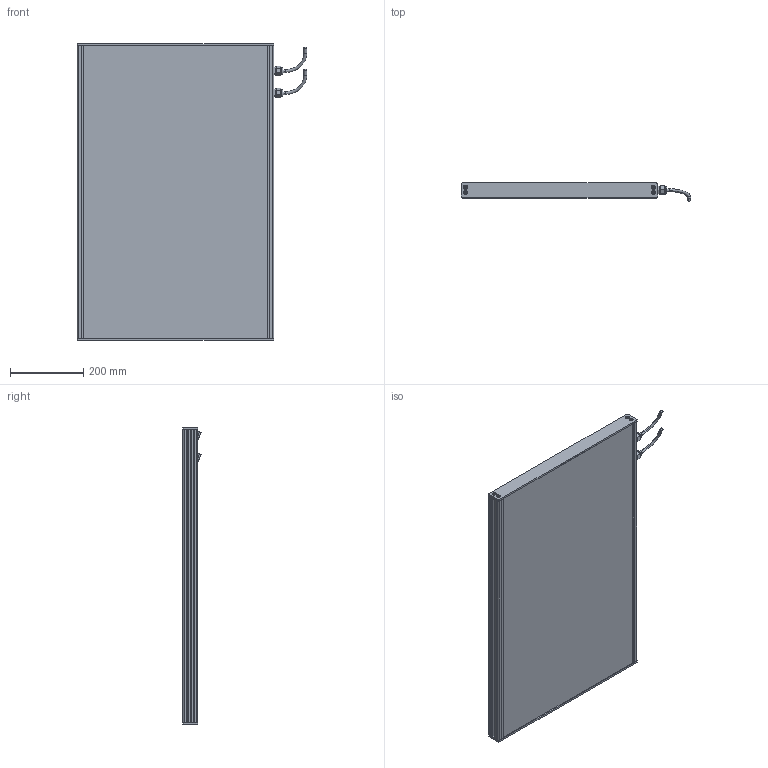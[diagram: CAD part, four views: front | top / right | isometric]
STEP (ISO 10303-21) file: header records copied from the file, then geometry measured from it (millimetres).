
FILE_DESCRIPTION (( 'STEP AP214' ), '1' );
FILE_NAME ('EFFI-BL-500-800T-1M12P.STEP', '2021-07-02T10:26:03', ( '' ), ( '' ), 'SwSTEP 2.0', 'SolidWorks 2021', '' );
FILE_SCHEMA (( 'AUTOMOTIVE_DESIGN' ));
Length unit declared in the file: millimetre
Products named in the file (7): M12 power; profile modif_lg 99.5 mm; EFFI-BL-500-800T-1M12P; bord fin modif_lg 436.5 mm; 003776; Pièce2^EFFI-BL-XXX-YYYT + 2 M12P
Assembly tree (15 placements, depth 2):
  EFFI-BL-500-800T-1M12P
    bord fin modif_lg 436.5 mm  x2
    profile modif_lg 99.5 mm
    Pièce2^EFFI-BL-XXX-YYYT + 2 M12P
    profile modif_lg 99.5 mm
    M12 power  x2
    003776  x8
Bounding box: 626.45 x 49.72 x 810 mm (x, y, z)
Volume: 14981420.1 mm3; surface area: 1232388.3 mm2
Topology: 13 solids, 19 shells, 625 faces, 1582 edges, 1014 vertices
Faces by surface type: plane 360, bspline 125, cylinder 112, cone 20, torus 8
Entity records: 15910 total; most frequent: CARTESIAN_POINT 5250, ORIENTED_EDGE 2128, DIRECTION 1806, EDGE_CURVE 1066, VECTOR 780, LINE 780, VERTEX_POINT 703, AXIS2_PLACEMENT_3D 513
